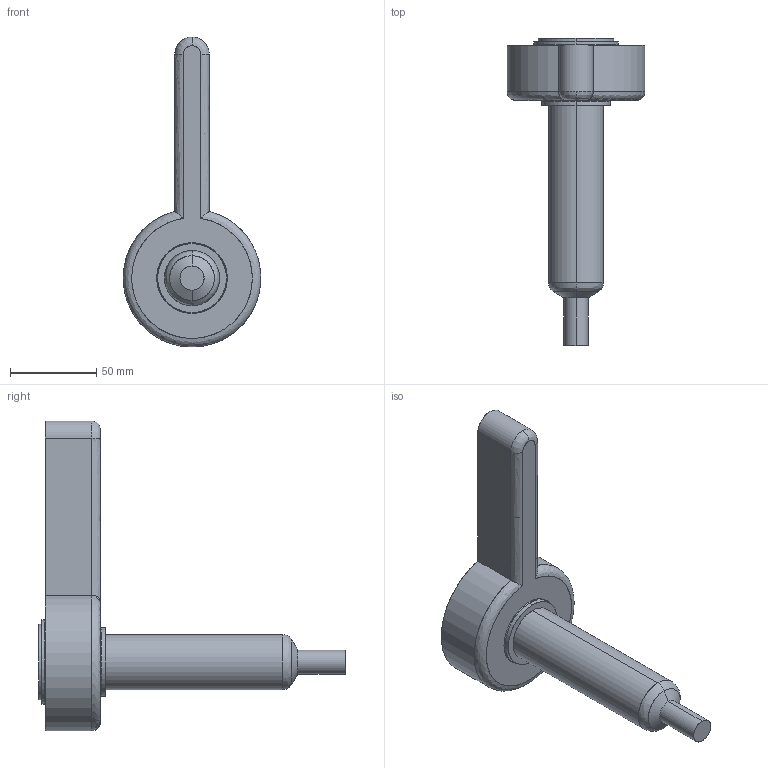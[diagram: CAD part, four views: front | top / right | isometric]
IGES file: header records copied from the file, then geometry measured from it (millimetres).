
Start section: SolidWorks IGES file using analytic representation for surfaces
Global section: file name: C:\Documents and Settings\ws-20\Desktop\TEM\Sede UGBE4503-S-A C-114 L-151 P-25.IGS; native system: SolidWorks 2012; preprocessor: SolidWorks 2012; author: ws-20; date: 120412.155722; units: millimetre
Bounding box: 79.97 x 178.29 x 180 mm (x, y, z)
Surface area: 40080.3 mm2 (no closed solid volume)
Topology: 0 solids, 0 shells, 34 faces, 788 edges, 788 vertices
Faces by surface type: revolution 21, bspline 13
